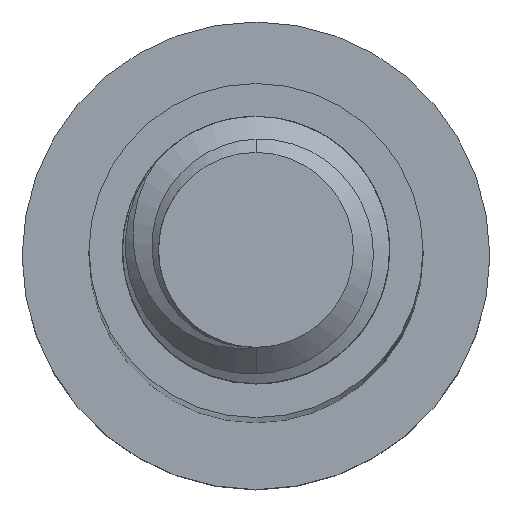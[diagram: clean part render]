
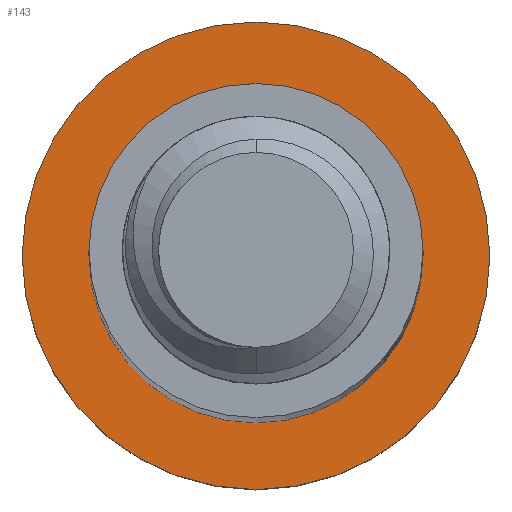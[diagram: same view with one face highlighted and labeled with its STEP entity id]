
A CAD part, top view. The second image highlights one B-rep face of the part: STEP entity #143.
In plain terms, the highlighted planar face has unit normal (0, 0, 1).
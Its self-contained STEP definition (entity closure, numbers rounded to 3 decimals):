
#43 = EDGE_CURVE ( 'NONE', #547, #3915, #2075, .T. ) ;
#49 = CARTESIAN_POINT ( 'NONE',  ( -7., 0., -90. ) ) ;
#100 = CARTESIAN_POINT ( 'NONE',  ( 0., 0., -90. ) ) ;
#143 = ADVANCED_FACE ( 'NONE', ( #2336, #3659 ), #724, .F. ) ;
#257 = CARTESIAN_POINT ( 'NONE',  ( 0., 0., -90. ) ) ;
#331 = CARTESIAN_POINT ( 'NONE',  ( 5., 0., -90. ) ) ;
#349 = EDGE_CURVE ( 'NONE', #3915, #547, #1670, .T. ) ;
#382 = DIRECTION ( 'NONE',  ( -1., 0., 0. ) ) ;
#389 = DIRECTION ( 'NONE',  ( -1., 0., 0. ) ) ;
#401 = EDGE_LOOP ( 'NONE', ( #2196, #2820 ) ) ;
#515 = AXIS2_PLACEMENT_3D ( 'NONE', #1739, #3512, #2101 ) ;
#547 = VERTEX_POINT ( 'NONE', #331 ) ;
#583 = DIRECTION ( 'NONE',  ( -1., 0., 0. ) ) ;
#724 = PLANE ( 'NONE',  #515 ) ;
#997 = CARTESIAN_POINT ( 'NONE',  ( 0., 0., -90. ) ) ;
#1195 = AXIS2_PLACEMENT_3D ( 'NONE', #997, #2297, #389 ) ;
#1269 = CARTESIAN_POINT ( 'NONE',  ( -5., 0., -90. ) ) ;
#1402 = DIRECTION ( 'NONE',  ( 0., 0., -1. ) ) ;
#1523 = AXIS2_PLACEMENT_3D ( 'NONE', #100, #1402, #382 ) ;
#1529 = AXIS2_PLACEMENT_3D ( 'NONE', #257, #3795, #583 ) ;
#1599 = CARTESIAN_POINT ( 'NONE',  ( 7., 0., -90. ) ) ;
#1670 = CIRCLE ( 'NONE', #1195, 5. ) ;
#1739 = CARTESIAN_POINT ( 'NONE',  ( 0., 0., -90. ) ) ;
#1918 = DIRECTION ( 'NONE',  ( 0., 0., -1. ) ) ;
#1985 = EDGE_CURVE ( 'NONE', #3641, #2378, #3378, .T. ) ;
#2075 = CIRCLE ( 'NONE', #1523, 5. ) ;
#2101 = DIRECTION ( 'NONE',  ( -1., 0., 0. ) ) ;
#2196 = ORIENTED_EDGE ( 'NONE', *, *, #349, .T. ) ;
#2297 = DIRECTION ( 'NONE',  ( 0., 0., -1. ) ) ;
#2336 = FACE_BOUND ( 'NONE', #401, .T. ) ;
#2378 = VERTEX_POINT ( 'NONE', #1599 ) ;
#2746 = ORIENTED_EDGE ( 'NONE', *, *, #1985, .F. ) ;
#2820 = ORIENTED_EDGE ( 'NONE', *, *, #43, .T. ) ;
#2918 = EDGE_LOOP ( 'NONE', ( #3312, #2746 ) ) ;
#3237 = DIRECTION ( 'NONE',  ( -1., 0., 0. ) ) ;
#3312 = ORIENTED_EDGE ( 'NONE', *, *, #3886, .F. ) ;
#3378 = CIRCLE ( 'NONE', #1529, 7. ) ;
#3384 = AXIS2_PLACEMENT_3D ( 'NONE', #4200, #1918, #3237 ) ;
#3512 = DIRECTION ( 'NONE',  ( 0., 0., -1. ) ) ;
#3641 = VERTEX_POINT ( 'NONE', #49 ) ;
#3659 = FACE_OUTER_BOUND ( 'NONE', #2918, .T. ) ;
#3795 = DIRECTION ( 'NONE',  ( 0., 0., -1. ) ) ;
#3865 = CIRCLE ( 'NONE', #3384, 7. ) ;
#3886 = EDGE_CURVE ( 'NONE', #2378, #3641, #3865, .T. ) ;
#3915 = VERTEX_POINT ( 'NONE', #1269 ) ;
#4200 = CARTESIAN_POINT ( 'NONE',  ( 0., 0., -90. ) ) ;
